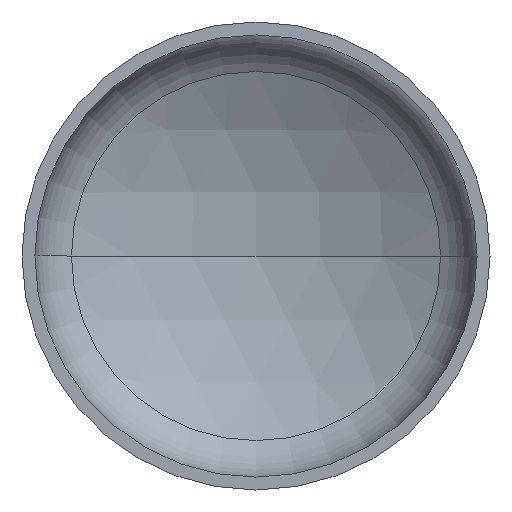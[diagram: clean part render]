
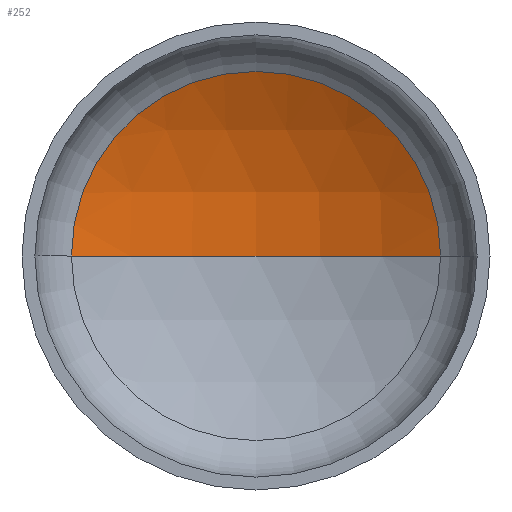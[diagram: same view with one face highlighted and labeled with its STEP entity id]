
A CAD part, front view. The second image highlights one B-rep face of the part: STEP entity #252.
In plain terms, the highlighted spherical face has radius 960 mm.
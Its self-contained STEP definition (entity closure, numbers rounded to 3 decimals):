
#12 = CARTESIAN_POINT ( 'NONE',  ( 0., 260.966, 0. ) ) ;
#32 = VERTEX_POINT ( 'NONE', #45 ) ;
#35 = AXIS2_PLACEMENT_3D ( 'NONE', #231, #258, #200 ) ;
#39 = AXIS2_PLACEMENT_3D ( 'NONE', #318, #277, #351 ) ;
#43 = AXIS2_PLACEMENT_3D ( 'NONE', #406, #373, #168 ) ;
#45 = CARTESIAN_POINT ( 'NONE',  ( 0., 385.685, 0. ) ) ;
#46 = AXIS2_PLACEMENT_3D ( 'NONE', #12, #167, #234 ) ;
#58 = VERTEX_POINT ( 'NONE', #143 ) ;
#63 = ORIENTED_EDGE ( 'NONE', *, *, #95, .T. ) ;
#78 = ORIENTED_EDGE ( 'NONE', *, *, #98, .T. ) ;
#93 = EDGE_LOOP ( 'NONE', ( #129, #78, #63 ) ) ;
#95 = EDGE_CURVE ( 'NONE', #405, #58, #315, .T. ) ;
#98 = EDGE_CURVE ( 'NONE', #32, #405, #251, .T. ) ;
#110 = EDGE_CURVE ( 'NONE', #32, #58, #184, .T. ) ;
#129 = ORIENTED_EDGE ( 'NONE', *, *, #110, .F. ) ;
#143 = CARTESIAN_POINT ( 'NONE',  ( -473.187, 260.966, 0. ) ) ;
#167 = DIRECTION ( 'NONE',  ( 0., -1., 0. ) ) ;
#168 = DIRECTION ( 'NONE',  ( -1., 0., 0. ) ) ;
#184 = CIRCLE ( 'NONE', #39, 960. ) ;
#200 = DIRECTION ( 'NONE',  ( -1., 0., 0. ) ) ;
#231 = CARTESIAN_POINT ( 'NONE',  ( 0., -574.315, 0. ) ) ;
#234 = DIRECTION ( 'NONE',  ( 1., 0., 0. ) ) ;
#251 = CIRCLE ( 'NONE', #43, 960. ) ;
#252 = ADVANCED_FACE ( 'NONE', ( #306 ), #291, .F. ) ;
#258 = DIRECTION ( 'NONE',  ( 0., 0., -1. ) ) ;
#277 = DIRECTION ( 'NONE',  ( 0., 0., 1. ) ) ;
#291 = SPHERICAL_SURFACE ( 'NONE', #35, 960. ) ;
#301 = CARTESIAN_POINT ( 'NONE',  ( 473.187, 260.966, 0. ) ) ;
#306 = FACE_OUTER_BOUND ( 'NONE', #93, .T. ) ;
#315 = CIRCLE ( 'NONE', #46, 473.187 ) ;
#318 = CARTESIAN_POINT ( 'NONE',  ( 0., -574.315, 0. ) ) ;
#351 = DIRECTION ( 'NONE',  ( 1., 0., 0. ) ) ;
#373 = DIRECTION ( 'NONE',  ( 0., 0., -1. ) ) ;
#405 = VERTEX_POINT ( 'NONE', #301 ) ;
#406 = CARTESIAN_POINT ( 'NONE',  ( 0., -574.315, 0. ) ) ;
